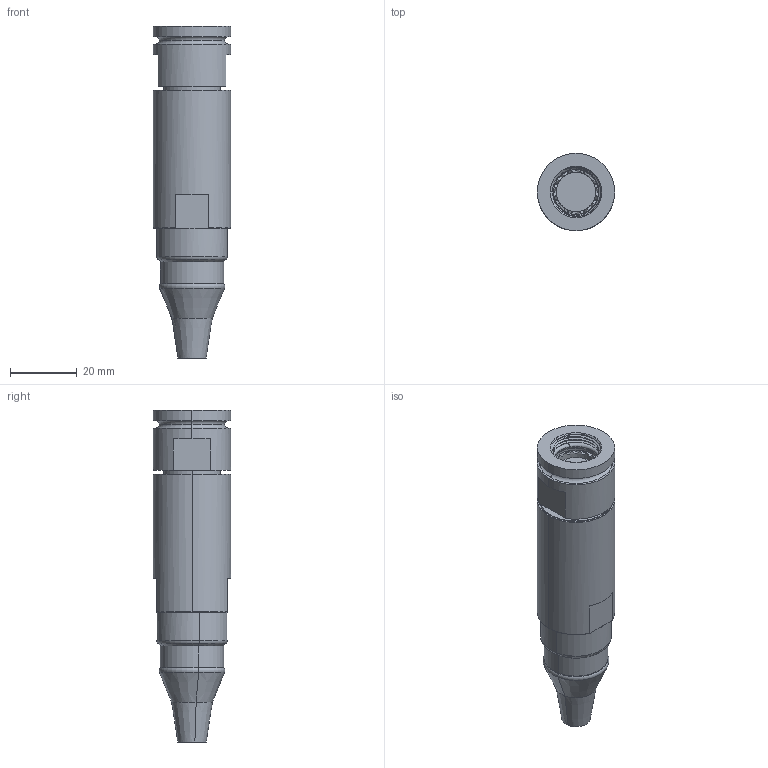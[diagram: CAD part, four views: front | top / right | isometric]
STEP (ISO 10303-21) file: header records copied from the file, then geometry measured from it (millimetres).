
FILE_DESCRIPTION (( 'STEP AP214' ), '1' );
FILE_NAME ('Q38SHELL-STX-11-XXXX-HX.STEP', '2025-09-09T16:02:25', ( '' ), ( '' ), 'SwSTEP 2.0', 'SolidWorks 2024', '' );
FILE_SCHEMA (( 'AUTOMOTIVE_DESIGN' ));
Length unit declared in the file: millimetre
Products named in the file (1): Q38SHELL-STX-11-XXXX-HX
Bounding box: 23.24 x 23.24 x 99.78 mm (x, y, z)
Volume: 30194.8 mm3; surface area: 9885.3 mm2
Topology: 2 solids, 2 shells, 170 faces, 426 edges, 273 vertices
Faces by surface type: plane 93, cylinder 37, cone 20, torus 17, bspline 3
Entity records: 6005 total; most frequent: CARTESIAN_POINT 1986, DIRECTION 868, ORIENTED_EDGE 852, EDGE_CURVE 426, AXIS2_PLACEMENT_3D 364, VERTEX_POINT 273, CIRCLE 196, EDGE_LOOP 185
